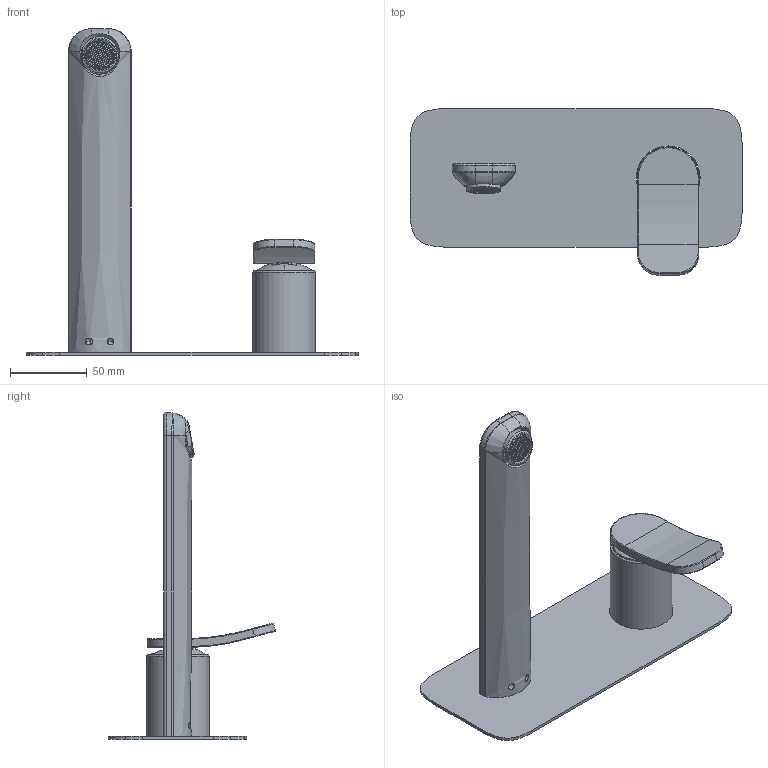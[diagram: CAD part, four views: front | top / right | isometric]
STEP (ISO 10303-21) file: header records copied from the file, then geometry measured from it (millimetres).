
FILE_DESCRIPTION((''),'2;1');
FILE_NAME('3DF_F3821LX5','2022-03-10T16:25:17',('ivanv'),(''),'CREO PARAMETRIC BY PTC INC, 2021184','CREO PARAMETRIC BY PTC INC, 2021184','');
FILE_SCHEMA(('CONFIG_CONTROL_DESIGN'));
Products named in the file (1): 3DF_F3821LX5
Bounding box: 216 x 108.52 x 212.5 mm (x, y, z)
Volume: 181206 mm3; surface area: 96281.7 mm2
Topology: 4 solids, 4 shells, 4000 faces, 10602 edges, 6973 vertices
Faces by surface type: plane 2579, cylinder 871, cone 302, torus 106, bspline 95, extrusion 38, sphere 9
Entity records: 142429 total; most frequent: CARTESIAN_POINT 50050, ORIENTED_EDGE 21196, DIRECTION 15505, EDGE_CURVE 10598, VERTEX_POINT 6973, VECTOR 5895, LINE 5857, AXIS2_PLACEMENT_3D 4805
